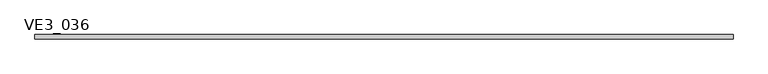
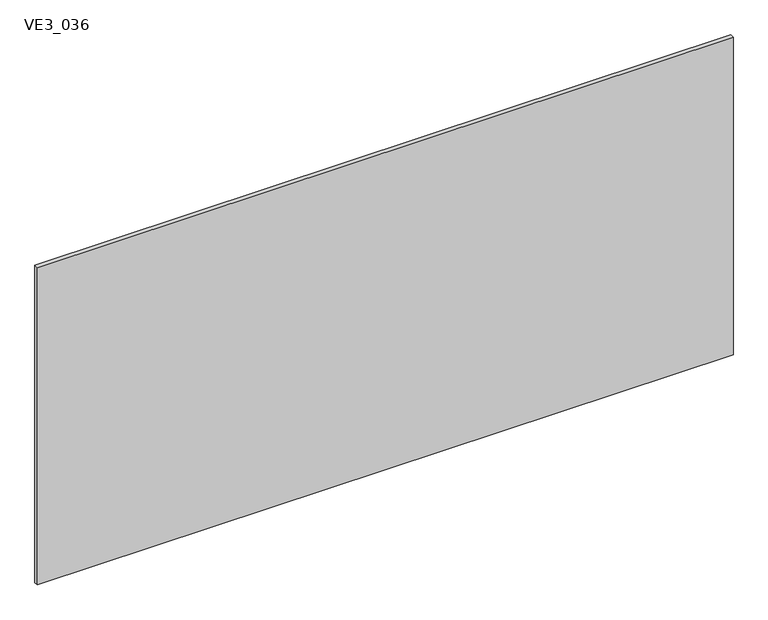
"""IFC4 building model written with IfcOpenShell, lengths in millimetres: plate geometry, TRP_CP_ARC_PF_RE_SE : VE3_036."""

from ifc_helpers import new_model, si_unit, frame, origin, place, context, project, spatial, polyline, outline, extrude, source, transform, mapped, element, save


def ve3_036_99c6b09f(model_context):
    return source(origin(), model_context, "Body", "SweptSolid", [
        extrude(outline(polyline([(3042.5, 18.0), (3042.5, -18.0), (-3042.5, -18.0), (-3042.5, 18.0), (3042.5, 18.0)])), frame((0.0, 0.0, -3.1739529), z_axis=(0.0, 0.0, 1.0), x_axis=(1.0, 0.0, 0.0)), (0.0, 0.0, 1.0), 2933.1739529),
    ])


if __name__ == "__main__":
    model = new_model("IFC4")
    model_context = context("Model", 3, world=origin())
    ifc_project = project(units=[si_unit("LENGTHUNIT", "METRE", prefix="MILLI")], contexts=[model_context])
    site = spatial("IfcSite", under=ifc_project)
    building = spatial("IfcBuilding", under=site)
    placement = place(None, origin())
    ve3_036_shape = ve3_036_99c6b09f(model_context)
    element("IfcPlate", 1, ObjectType="TRP_CP_ARC_PF_RE_SE : VE3_036", at=placement, inside=building, context=model_context, shape_type="MappedRepresentation", body=[
        mapped(ve3_036_shape, transform((0.0, 0.0, 0.0), x_axis=(1.0, 0.0, 0.0), y_axis=(0.0, 1.0, 0.0), z_axis=(0.0, 0.0, 1.0))),
    ])
    save(model, "model.ifc")
